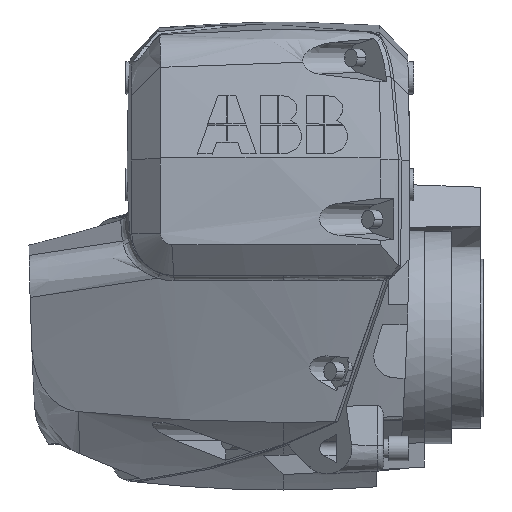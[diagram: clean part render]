
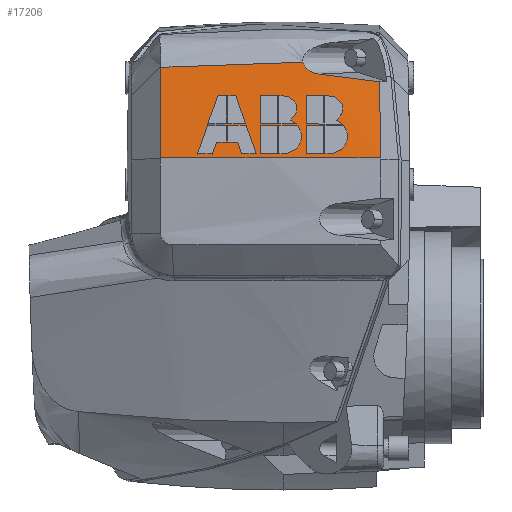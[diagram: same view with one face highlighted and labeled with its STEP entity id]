
A CAD part, left-side view. The second image highlights one B-rep face of the part: STEP entity #17206.
In plain terms, the highlighted conical face has half-angle 10 degrees and reference radius 1024.08 mm.
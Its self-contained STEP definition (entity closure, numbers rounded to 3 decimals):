
#195 = B_SPLINE_CURVE_WITH_KNOTS ( 'NONE', 3,
 ( #36087, #36301, #36208, #36047, #35986, #35931, #35774, #35831, #35730, #35666, #35607, #35553, #35515, #35510, #35388, #35358, #35447, #35349, #35294, #35200, #35193, #35135, #35081, #34981, #35037, #34928, #34882, #42209, #34821, #34718, #34608, #34667, #34559, #34452, #34406, #34293, #34135, #34244, #3987, #34191, #34081, #33981, #34034 ),
 .UNSPECIFIED., .F., .F.,
 ( 4, 1, 1, 1, 1, 1, 2, 2, 2, 1, 1, 1, 1, 2, 2, 1, 1, 1, 2, 2, 1, 1, 1, 2, 2, 1, 1, 2, 2, 4 ),
 ( 0., 0.125, 0.187, 0.219, 0.234, 0.242, 0.246, 0.25, 0.375, 0.437, 0.469, 0.484, 0.492, 0.496, 0.5, 0.562, 0.594, 0.609, 0.617, 0.625, 0.687, 0.719, 0.734, 0.742, 0.75, 0.812, 0.844, 0.859, 0.875, 1. ),
 .UNSPECIFIED. ) ;
#978 = EDGE_CURVE ( 'NONE', #21167, #5693, #7063, .T. ) ;
#1558 = EDGE_CURVE ( 'NONE', #15524, #22295, #195, .T. ) ;
#2597 = ORIENTED_EDGE ( 'NONE', *, *, #1558, .T. ) ;
#3331 = ORIENTED_EDGE ( 'NONE', *, *, #978, .F. ) ;
#3923 = CARTESIAN_POINT ( 'NONE',  ( 23.676, -72.608, 1337.128 ) ) ;
#3987 = CARTESIAN_POINT ( 'NONE',  ( 23.421, -15.507, 1349.771 ) ) ;
#5693 = VERTEX_POINT ( 'NONE', #9661 ) ;
#6267 = CARTESIAN_POINT ( 'NONE',  ( 13.595, -72.85, 1280. ) ) ;
#7063 = B_SPLINE_CURVE_WITH_KNOTS ( 'NONE', 3,
 ( #6267, #7408, #24963, #30817, #30552, #15500 ),
 .UNSPECIFIED., .F., .F.,
 ( 4, 2, 4 ),
 ( 0., 0.5, 1. ),
 .UNSPECIFIED. ) ;
#7408 = CARTESIAN_POINT ( 'NONE',  ( 11.636, -45.391, 1280. ) ) ;
#8526 = ORIENTED_EDGE ( 'NONE', *, *, #9397, .T. ) ;
#8949 = CARTESIAN_POINT ( 'NONE',  ( 13.595, -72.85, 1280. ) ) ;
#9164 = CARTESIAN_POINT ( 'NONE',  ( 24.469, 56.256, 1351.047 ) ) ;
#9397 = EDGE_CURVE ( 'NONE', #23895, #15524, #21653, .T. ) ;
#9495 = CARTESIAN_POINT ( 'NONE',  ( 22.451, -27.048, 1342.895 ) ) ;
#9661 = CARTESIAN_POINT ( 'NONE',  ( 15.154, 92.139, 1280.001 ) ) ;
#10952 = CARTESIAN_POINT ( 'NONE',  ( 16.98, -72.967, 1299.105 ) ) ;
#11360 = EDGE_CURVE ( 'NONE', #33732, #5693, #40066, .T. ) ;
#13331 = CARTESIAN_POINT ( 'NONE',  ( 22.451, -27.048, 1342.895 ) ) ;
#15500 = CARTESIAN_POINT ( 'NONE',  ( 15.154, 92.139, 1280.001 ) ) ;
#15524 = VERTEX_POINT ( 'NONE', #13331 ) ;
#16523 = B_SPLINE_CURVE_WITH_KNOTS ( 'NONE', 3,
 ( #33098, #36814, #10952, #37145 ),
 .UNSPECIFIED., .F., .F.,
 ( 4, 4 ),
 ( 0., 1. ),
 .UNSPECIFIED. ) ;
#17055 = CARTESIAN_POINT ( 'NONE',  ( 27.151, 91.662, 1348.004 ) ) ;
#17206 = ADVANCED_FACE ( 'NONE', ( #23182 ), #19677, .T. ) ;
#17524 = ORIENTED_EDGE ( 'NONE', *, *, #20204, .F. ) ;
#19677 = CONICAL_SURFACE ( 'NONE', #40689, 1024.077, 0.175 ) ;
#20204 = EDGE_CURVE ( 'NONE', #23895, #21167, #16523, .T. ) ;
#20495 = CARTESIAN_POINT ( 'NONE',  ( 23.774, -14.82, 1351.832 ) ) ;
#20946 = CARTESIAN_POINT ( 'NONE',  ( 19.189, 92.263, 1302.727 ) ) ;
#21167 = VERTEX_POINT ( 'NONE', #8949 ) ;
#21223 = ORIENTED_EDGE ( 'NONE', *, *, #11360, .T. ) ;
#21653 = B_SPLINE_CURVE_WITH_KNOTS ( 'NONE', 3,
 ( #43098, #46798, #32016, #9495 ),
 .UNSPECIFIED., .F., .F.,
 ( 4, 4 ),
 ( 0., 1. ),
 .UNSPECIFIED. ) ;
#22295 = VERTEX_POINT ( 'NONE', #39716 ) ;
#23182 = FACE_OUTER_BOUND ( 'NONE', #44589, .T. ) ;
#23895 = VERTEX_POINT ( 'NONE', #3923 ) ;
#24105 = CARTESIAN_POINT ( 'NONE',  ( 27.151, 91.662, 1348.004 ) ) ;
#24963 = CARTESIAN_POINT ( 'NONE',  ( 10.786, -17.852, 1280. ) ) ;
#25960 = ORIENTED_EDGE ( 'NONE', *, *, #30315, .T. ) ;
#30315 = EDGE_CURVE ( 'NONE', #22295, #33732, #34852, .T. ) ;
#30552 = CARTESIAN_POINT ( 'NONE',  ( 12.677, 64.721, 1280.001 ) ) ;
#30817 = CARTESIAN_POINT ( 'NONE',  ( 11.306, 37.204, 1280.001 ) ) ;
#32016 = CARTESIAN_POINT ( 'NONE',  ( 22.507, -42.326, 1340.896 ) ) ;
#33098 = CARTESIAN_POINT ( 'NONE',  ( 23.676, -72.608, 1337.128 ) ) ;
#33732 = VERTEX_POINT ( 'NONE', #24105 ) ;
#33981 = CARTESIAN_POINT ( 'NONE',  ( 23.66, -14.948, 1351.171 ) ) ;
#34034 = CARTESIAN_POINT ( 'NONE',  ( 23.774, -14.82, 1351.832 ) ) ;
#34081 = CARTESIAN_POINT ( 'NONE',  ( 23.551, -15.153, 1350.535 ) ) ;
#34135 = CARTESIAN_POINT ( 'NONE',  ( 23.359, -15.695, 1349.4 ) ) ;
#34191 = CARTESIAN_POINT ( 'NONE',  ( 23.434, -15.472, 1349.845 ) ) ;
#34244 = CARTESIAN_POINT ( 'NONE',  ( 23.396, -15.581, 1349.622 ) ) ;
#34293 = CARTESIAN_POINT ( 'NONE',  ( 23.274, -15.984, 1348.892 ) ) ;
#34406 = CARTESIAN_POINT ( 'NONE',  ( 23.204, -16.27, 1348.473 ) ) ;
#34452 = CARTESIAN_POINT ( 'NONE',  ( 23.154, -16.504, 1348.167 ) ) ;
#34559 = CARTESIAN_POINT ( 'NONE',  ( 23.149, -16.528, 1348.135 ) ) ;
#34608 = CARTESIAN_POINT ( 'NONE',  ( 23.123, -16.657, 1347.973 ) ) ;
#34667 = CARTESIAN_POINT ( 'NONE',  ( 23.138, -16.579, 1348.07 ) ) ;
#34718 = CARTESIAN_POINT ( 'NONE',  ( 23.086, -16.841, 1347.749 ) ) ;
#34821 = CARTESIAN_POINT ( 'NONE',  ( 23.015, -17.229, 1347.312 ) ) ;
#34852 = B_SPLINE_CURVE_WITH_KNOTS ( 'NONE', 3,
 ( #20495, #39030, #9164, #35418 ),
 .UNSPECIFIED., .F., .F.,
 ( 4, 4 ),
 ( 0., 1. ),
 .UNSPECIFIED. ) ;
#34882 = CARTESIAN_POINT ( 'NONE',  ( 22.918, -17.881, 1346.697 ) ) ;
#34928 = CARTESIAN_POINT ( 'NONE',  ( 22.914, -17.911, 1346.671 ) ) ;
#34981 = CARTESIAN_POINT ( 'NONE',  ( 22.893, -18.067, 1346.535 ) ) ;
#35037 = CARTESIAN_POINT ( 'NONE',  ( 22.906, -17.973, 1346.616 ) ) ;
#35081 = CARTESIAN_POINT ( 'NONE',  ( 22.864, -18.29, 1346.347 ) ) ;
#35135 = CARTESIAN_POINT ( 'NONE',  ( 22.808, -18.751, 1345.984 ) ) ;
#35193 = CARTESIAN_POINT ( 'NONE',  ( 22.765, -19.171, 1345.691 ) ) ;
#35200 = CARTESIAN_POINT ( 'NONE',  ( 22.735, -19.48, 1345.492 ) ) ;
#35294 = CARTESIAN_POINT ( 'NONE',  ( 22.734, -19.496, 1345.482 ) ) ;
#35349 = CARTESIAN_POINT ( 'NONE',  ( 22.731, -19.53, 1345.461 ) ) ;
#35358 = CARTESIAN_POINT ( 'NONE',  ( 22.715, -19.701, 1345.353 ) ) ;
#35388 = CARTESIAN_POINT ( 'NONE',  ( 22.694, -19.944, 1345.206 ) ) ;
#35418 = CARTESIAN_POINT ( 'NONE',  ( 27.151, 91.662, 1348.004 ) ) ;
#35447 = CARTESIAN_POINT ( 'NONE',  ( 22.726, -19.581, 1345.428 ) ) ;
#35510 = CARTESIAN_POINT ( 'NONE',  ( 22.654, -20.44, 1344.922 ) ) ;
#35515 = CARTESIAN_POINT ( 'NONE',  ( 22.623, -20.883, 1344.695 ) ) ;
#35553 = CARTESIAN_POINT ( 'NONE',  ( 22.566, -21.794, 1344.266 ) ) ;
#35607 = CARTESIAN_POINT ( 'NONE',  ( 22.535, -22.434, 1344.011 ) ) ;
#35666 = CARTESIAN_POINT ( 'NONE',  ( 22.51, -23.127, 1343.78 ) ) ;
#35730 = CARTESIAN_POINT ( 'NONE',  ( 22.51, -23.145, 1343.774 ) ) ;
#35774 = CARTESIAN_POINT ( 'NONE',  ( 22.506, -23.242, 1343.742 ) ) ;
#35831 = CARTESIAN_POINT ( 'NONE',  ( 22.508, -23.184, 1343.761 ) ) ;
#35931 = CARTESIAN_POINT ( 'NONE',  ( 22.502, -23.378, 1343.698 ) ) ;
#35986 = CARTESIAN_POINT ( 'NONE',  ( 22.493, -23.652, 1343.613 ) ) ;
#36047 = CARTESIAN_POINT ( 'NONE',  ( 22.477, -24.206, 1343.451 ) ) ;
#36087 = CARTESIAN_POINT ( 'NONE',  ( 22.451, -27.048, 1342.895 ) ) ;
#36208 = CARTESIAN_POINT ( 'NONE',  ( 22.454, -25.339, 1343.166 ) ) ;
#36301 = CARTESIAN_POINT ( 'NONE',  ( 22.449, -26.353, 1342.986 ) ) ;
#36814 = CARTESIAN_POINT ( 'NONE',  ( 20.341, -72.886, 1318.148 ) ) ;
#37145 = CARTESIAN_POINT ( 'NONE',  ( 13.595, -72.85, 1280. ) ) ;
#39030 = CARTESIAN_POINT ( 'NONE',  ( 23.34, 20.729, 1352.323 ) ) ;
#39716 = CARTESIAN_POINT ( 'NONE',  ( 23.774, -14.82, 1351.832 ) ) ;
#40004 = DIRECTION ( 'NONE',  ( 0., 1., 0. ) ) ;
#40066 = B_SPLINE_CURVE_WITH_KNOTS ( 'NONE', 3,
 ( #17055, #46766, #20946, #46921 ),
 .UNSPECIFIED., .F., .F.,
 ( 4, 4 ),
 ( 0., 1. ),
 .UNSPECIFIED. ) ;
#40689 = AXIS2_PLACEMENT_3D ( 'NONE', #43752, #47461, #40004 ) ;
#42209 = CARTESIAN_POINT ( 'NONE',  ( 22.959, -17.592, 1346.955 ) ) ;
#43098 = CARTESIAN_POINT ( 'NONE',  ( 23.676, -72.608, 1337.128 ) ) ;
#43752 = CARTESIAN_POINT ( 'NONE',  ( 1035., 0., 1279.565 ) ) ;
#44589 = EDGE_LOOP ( 'NONE', ( #17524, #8526, #2597, #25960, #21223, #3331 ) ) ;
#46766 = CARTESIAN_POINT ( 'NONE',  ( 23.187, 92.1, 1325.394 ) ) ;
#46798 = CARTESIAN_POINT ( 'NONE',  ( 22.919, -57.518, 1338.974 ) ) ;
#46921 = CARTESIAN_POINT ( 'NONE',  ( 15.154, 92.139, 1280.001 ) ) ;
#47461 = DIRECTION ( 'NONE',  ( 0., 0., -1. ) ) ;
